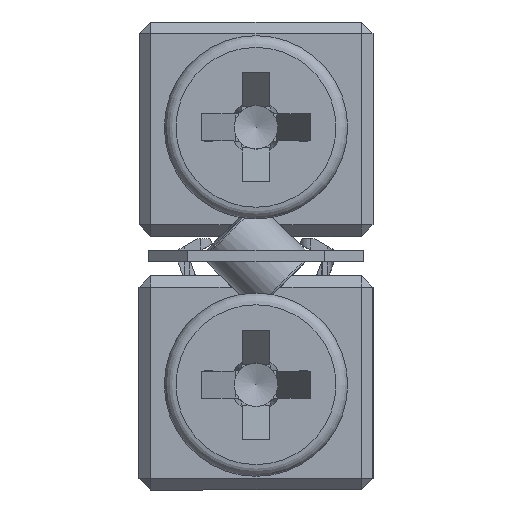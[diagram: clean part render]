
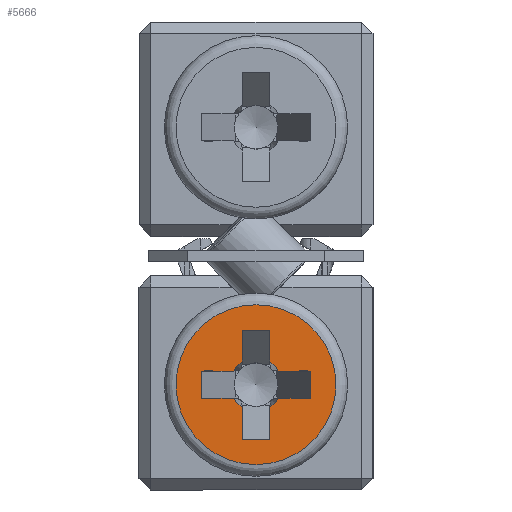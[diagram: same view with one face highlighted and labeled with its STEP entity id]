
A CAD part, left-side view. The second image highlights one B-rep face of the part: STEP entity #5666.
In plain terms, the highlighted planar face has unit normal (-1, 0, 0).
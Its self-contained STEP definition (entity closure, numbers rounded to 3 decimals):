
#230 = ORIENTED_EDGE ( 'NONE', *, *, #25616, .T. ) ;
#369 = DIRECTION ( 'NONE',  ( 1., 0., 0. ) ) ;
#539 = ORIENTED_EDGE ( 'NONE', *, *, #1190, .F. ) ;
#581 = AXIS2_PLACEMENT_3D ( 'NONE', #7671, #15584, #2442 ) ;
#887 = DIRECTION ( 'NONE',  ( 0., 0., -1. ) ) ;
#1190 = EDGE_CURVE ( 'NONE', #4401, #10174, #23917, .T. ) ;
#1367 = EDGE_CURVE ( 'NONE', #3122, #7033, #27050, .T. ) ;
#1435 = CARTESIAN_POINT ( 'NONE',  ( -76.5, -1.4, 2.35 ) ) ;
#1696 = DIRECTION ( 'NONE',  ( 0., 1., 0. ) ) ;
#1852 = VERTEX_POINT ( 'NONE', #10540 ) ;
#1950 = CARTESIAN_POINT ( 'NONE',  ( -76.5, -0.35, 2.119 ) ) ;
#2442 = DIRECTION ( 'NONE',  ( 0., 0., -1. ) ) ;
#2563 = CARTESIAN_POINT ( 'NONE',  ( -76.5, -0.35, 1.3 ) ) ;
#2827 = LINE ( 'NONE', #31584, #6687 ) ;
#3052 = LINE ( 'NONE', #5353, #8567 ) ;
#3115 = ORIENTED_EDGE ( 'NONE', *, *, #15032, .T. ) ;
#3122 = VERTEX_POINT ( 'NONE', #9471 ) ;
#3159 = CARTESIAN_POINT ( 'NONE',  ( -76.5, 0.35, 1.3 ) ) ;
#4401 = VERTEX_POINT ( 'NONE', #25067 ) ;
#4675 = CARTESIAN_POINT ( 'NONE',  ( -76.5, -1.4, 2.35 ) ) ;
#4816 = ORIENTED_EDGE ( 'NONE', *, *, #29296, .F. ) ;
#5353 = CARTESIAN_POINT ( 'NONE',  ( -76.5, -0.35, 4.1 ) ) ;
#5416 = EDGE_CURVE ( 'NONE', #24876, #6467, #33684, .T. ) ;
#5666 = ADVANCED_FACE ( 'NONE', ( #21385, #13837 ), #8559, .F. ) ;
#5976 = CARTESIAN_POINT ( 'NONE',  ( -76.5, 2.35, 2.7 ) ) ;
#6467 = VERTEX_POINT ( 'NONE', #2563 ) ;
#6687 = VECTOR ( 'NONE', #29471, 1000. ) ;
#6739 = CARTESIAN_POINT ( 'NONE',  ( -76.5, -0.35, 4.1 ) ) ;
#7033 = VERTEX_POINT ( 'NONE', #30884 ) ;
#7671 = CARTESIAN_POINT ( 'NONE',  ( -76.5, 0., 2.7 ) ) ;
#7861 = VERTEX_POINT ( 'NONE', #1950 ) ;
#8009 = VERTEX_POINT ( 'NONE', #15195 ) ;
#8251 = DIRECTION ( 'NONE',  ( -1., 0., 0. ) ) ;
#8331 = DIRECTION ( 'NONE',  ( 0., 1., 0. ) ) ;
#8559 = PLANE ( 'NONE',  #19841 ) ;
#8567 = VECTOR ( 'NONE', #32526, 1000. ) ;
#8732 = CARTESIAN_POINT ( 'NONE',  ( -76.5, 1.4, 3.05 ) ) ;
#8841 = CARTESIAN_POINT ( 'NONE',  ( -76.5, -0.581, 2.35 ) ) ;
#9031 = CARTESIAN_POINT ( 'NONE',  ( -76.5, -0.581, 3.05 ) ) ;
#9164 = VERTEX_POINT ( 'NONE', #8841 ) ;
#9364 = CARTESIAN_POINT ( 'NONE',  ( -76.5, 1.4, 2.35 ) ) ;
#9471 = CARTESIAN_POINT ( 'NONE',  ( -76.5, 0.35, 3.281 ) ) ;
#9537 = LINE ( 'NONE', #4675, #13667 ) ;
#9643 = DIRECTION ( 'NONE',  ( 0., -1., 0. ) ) ;
#9735 = CARTESIAN_POINT ( 'NONE',  ( -76.5, -1.4, 2.35 ) ) ;
#10170 = DIRECTION ( 'NONE',  ( -1., 0., 0. ) ) ;
#10174 = VERTEX_POINT ( 'NONE', #34632 ) ;
#10486 = VECTOR ( 'NONE', #9643, 1000. ) ;
#10540 = CARTESIAN_POINT ( 'NONE',  ( -76.5, -0.35, 3.281 ) ) ;
#10874 = CARTESIAN_POINT ( 'NONE',  ( -76.5, 0., 2.7 ) ) ;
#11009 = ORIENTED_EDGE ( 'NONE', *, *, #19171, .F. ) ;
#11458 = VECTOR ( 'NONE', #16647, 1000. ) ;
#11470 = CIRCLE ( 'NONE', #32802, 0.678 ) ;
#11517 = AXIS2_PLACEMENT_3D ( 'NONE', #16855, #19474, #27721 ) ;
#12089 = CARTESIAN_POINT ( 'NONE',  ( -76.5, 0.35, 1.3 ) ) ;
#12288 = EDGE_CURVE ( 'NONE', #17359, #17739, #11470, .T. ) ;
#12712 = CARTESIAN_POINT ( 'NONE',  ( -76.5, -1.4, 3.05 ) ) ;
#13667 = VECTOR ( 'NONE', #1696, 1000. ) ;
#13751 = EDGE_CURVE ( 'NONE', #3122, #10174, #22222, .T. ) ;
#13837 = FACE_BOUND ( 'NONE', #28120, .T. ) ;
#13930 = ORIENTED_EDGE ( 'NONE', *, *, #16349, .F. ) ;
#14503 = CARTESIAN_POINT ( 'NONE',  ( -76.5, 0.35, 1.3 ) ) ;
#14894 = EDGE_LOOP ( 'NONE', ( #29255 ) ) ;
#15032 = EDGE_CURVE ( 'NONE', #4401, #1852, #3052, .T. ) ;
#15195 = CARTESIAN_POINT ( 'NONE',  ( -76.5, 1.4, 3.05 ) ) ;
#15321 = ORIENTED_EDGE ( 'NONE', *, *, #5416, .F. ) ;
#15352 = ORIENTED_EDGE ( 'NONE', *, *, #29478, .F. ) ;
#15584 = DIRECTION ( 'NONE',  ( -1., 0., 0. ) ) ;
#15749 = VECTOR ( 'NONE', #24486, 1000. ) ;
#15813 = VECTOR ( 'NONE', #8331, 1000. ) ;
#15815 = VECTOR ( 'NONE', #29970, 1000. ) ;
#15860 = CARTESIAN_POINT ( 'NONE',  ( -76.5, 0., 0.65 ) ) ;
#15879 = EDGE_CURVE ( 'NONE', #20715, #9164, #16060, .T. ) ;
#16060 = LINE ( 'NONE', #24642, #15813 ) ;
#16349 = EDGE_CURVE ( 'NONE', #7861, #9164, #28156, .T. ) ;
#16647 = DIRECTION ( 'NONE',  ( 0., 0., 1. ) ) ;
#16751 = CIRCLE ( 'NONE', #581, 2.05 ) ;
#16855 = CARTESIAN_POINT ( 'NONE',  ( -76.5, 0., 2.7 ) ) ;
#17359 = VERTEX_POINT ( 'NONE', #32496 ) ;
#17739 = VERTEX_POINT ( 'NONE', #32279 ) ;
#18028 = DIRECTION ( 'NONE',  ( 0., 0., 1. ) ) ;
#18126 = EDGE_CURVE ( 'NONE', #17359, #34640, #9537, .T. ) ;
#18791 = CIRCLE ( 'NONE', #11517, 0.678 ) ;
#19171 = EDGE_CURVE ( 'NONE', #8009, #34640, #32445, .T. ) ;
#19181 = EDGE_CURVE ( 'NONE', #24876, #17739, #27000, .T. ) ;
#19474 = DIRECTION ( 'NONE',  ( -1., 0., 0. ) ) ;
#19567 = EDGE_CURVE ( 'NONE', #7861, #6467, #29598, .T. ) ;
#19629 = ORIENTED_EDGE ( 'NONE', *, *, #19567, .T. ) ;
#19841 = AXIS2_PLACEMENT_3D ( 'NONE', #5976, #369, #24180 ) ;
#20156 = DIRECTION ( 'NONE',  ( 0., -1., 0. ) ) ;
#20599 = VERTEX_POINT ( 'NONE', #9031 ) ;
#20715 = VERTEX_POINT ( 'NONE', #9735 ) ;
#21053 = DIRECTION ( 'NONE',  ( 0., 0., 1. ) ) ;
#21228 = CARTESIAN_POINT ( 'NONE',  ( -76.5, 0., 2.7 ) ) ;
#21385 = FACE_OUTER_BOUND ( 'NONE', #14894, .T. ) ;
#22222 = LINE ( 'NONE', #14503, #15815 ) ;
#23139 = LINE ( 'NONE', #1435, #29476 ) ;
#23575 = DIRECTION ( 'NONE',  ( 0., 1., 0. ) ) ;
#23917 = LINE ( 'NONE', #34626, #32647 ) ;
#24168 = ORIENTED_EDGE ( 'NONE', *, *, #13751, .T. ) ;
#24180 = DIRECTION ( 'NONE',  ( 0., 0., -1. ) ) ;
#24486 = DIRECTION ( 'NONE',  ( 0., 0., -1. ) ) ;
#24642 = CARTESIAN_POINT ( 'NONE',  ( -76.5, -1.4, 2.35 ) ) ;
#24876 = VERTEX_POINT ( 'NONE', #26964 ) ;
#25067 = CARTESIAN_POINT ( 'NONE',  ( -76.5, -0.35, 4.1 ) ) ;
#25616 = EDGE_CURVE ( 'NONE', #20599, #29672, #2827, .T. ) ;
#25696 = ORIENTED_EDGE ( 'NONE', *, *, #18126, .T. ) ;
#25976 = LINE ( 'NONE', #33704, #10486 ) ;
#26066 = EDGE_CURVE ( 'NONE', #31312, #31312, #16751, .T. ) ;
#26592 = VECTOR ( 'NONE', #20156, 1000. ) ;
#26964 = CARTESIAN_POINT ( 'NONE',  ( -76.5, 0.35, 1.3 ) ) ;
#27000 = LINE ( 'NONE', #3159, #11458 ) ;
#27050 = CIRCLE ( 'NONE', #32094, 0.678 ) ;
#27721 = DIRECTION ( 'NONE',  ( 0., 0., 1. ) ) ;
#27845 = ORIENTED_EDGE ( 'NONE', *, *, #31602, .T. ) ;
#28120 = EDGE_LOOP ( 'NONE', ( #13930, #19629, #15321, #29358, #28286, #25696, #11009, #27845, #29371, #24168, #539, #3115, #4816, #230, #15352, #29557 ) ) ;
#28156 = CIRCLE ( 'NONE', #33784, 0.678 ) ;
#28286 = ORIENTED_EDGE ( 'NONE', *, *, #12288, .F. ) ;
#28386 = DIRECTION ( 'NONE',  ( -1., 0., 0. ) ) ;
#29255 = ORIENTED_EDGE ( 'NONE', *, *, #26066, .T. ) ;
#29296 = EDGE_CURVE ( 'NONE', #20599, #1852, #18791, .T. ) ;
#29358 = ORIENTED_EDGE ( 'NONE', *, *, #19181, .T. ) ;
#29371 = ORIENTED_EDGE ( 'NONE', *, *, #1367, .F. ) ;
#29471 = DIRECTION ( 'NONE',  ( 0., -1., 0. ) ) ;
#29476 = VECTOR ( 'NONE', #33686, 1000. ) ;
#29478 = EDGE_CURVE ( 'NONE', #20715, #29672, #23139, .T. ) ;
#29557 = ORIENTED_EDGE ( 'NONE', *, *, #15879, .T. ) ;
#29598 = LINE ( 'NONE', #6739, #15749 ) ;
#29672 = VERTEX_POINT ( 'NONE', #12712 ) ;
#29970 = DIRECTION ( 'NONE',  ( 0., 0., 1. ) ) ;
#30884 = CARTESIAN_POINT ( 'NONE',  ( -76.5, 0.581, 3.05 ) ) ;
#31032 = CARTESIAN_POINT ( 'NONE',  ( -76.5, 0., 2.7 ) ) ;
#31312 = VERTEX_POINT ( 'NONE', #15860 ) ;
#31584 = CARTESIAN_POINT ( 'NONE',  ( -76.5, 1.4, 3.05 ) ) ;
#31602 = EDGE_CURVE ( 'NONE', #8009, #7033, #25976, .T. ) ;
#31646 = VECTOR ( 'NONE', #887, 1000. ) ;
#32094 = AXIS2_PLACEMENT_3D ( 'NONE', #21228, #10170, #21053 ) ;
#32279 = CARTESIAN_POINT ( 'NONE',  ( -76.5, 0.35, 2.119 ) ) ;
#32445 = LINE ( 'NONE', #8732, #31646 ) ;
#32496 = CARTESIAN_POINT ( 'NONE',  ( -76.5, 0.581, 2.35 ) ) ;
#32526 = DIRECTION ( 'NONE',  ( 0., 0., -1. ) ) ;
#32647 = VECTOR ( 'NONE', #23575, 1000. ) ;
#32660 = DIRECTION ( 'NONE',  ( 0., 0., 1. ) ) ;
#32802 = AXIS2_PLACEMENT_3D ( 'NONE', #31032, #28386, #18028 ) ;
#33684 = LINE ( 'NONE', #12089, #26592 ) ;
#33686 = DIRECTION ( 'NONE',  ( 0., 0., 1. ) ) ;
#33704 = CARTESIAN_POINT ( 'NONE',  ( -76.5, 1.4, 3.05 ) ) ;
#33784 = AXIS2_PLACEMENT_3D ( 'NONE', #10874, #8251, #32660 ) ;
#34626 = CARTESIAN_POINT ( 'NONE',  ( -76.5, -0.35, 4.1 ) ) ;
#34632 = CARTESIAN_POINT ( 'NONE',  ( -76.5, 0.35, 4.1 ) ) ;
#34640 = VERTEX_POINT ( 'NONE', #9364 ) ;
